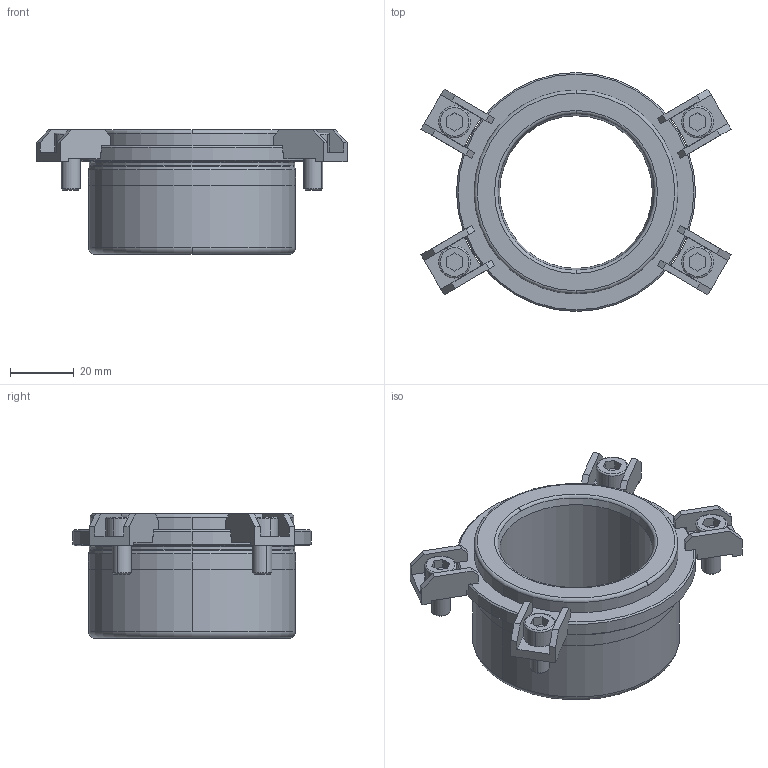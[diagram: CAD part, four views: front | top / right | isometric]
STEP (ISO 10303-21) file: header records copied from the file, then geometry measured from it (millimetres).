
FILE_DESCRIPTION((''),'2;1');
FILE_NAME('B42_040_029.stp','2008-11-04T14:34:55',(''),(''),'Mechanical Desktop 2009','Mechanical Desktop 2009',', , ');
FILE_SCHEMA(('CONFIG_CONTROL_DESIGN'));
Length unit declared in the file: millimetre
Products named in the file (2): Product; blmdl1
Assembly tree (1 placements, depth 2):
  Product
    blmdl1
Bounding box: 97.32 x 75 x 39 mm (x, y, z)
Volume: 69420.2 mm3; surface area: 25272.5 mm2
Topology: 9 solids, 9 shells, 233 faces, 598 edges, 394 vertices
Faces by surface type: plane 137, cylinder 48, cone 20, torus 16, bspline 12
Entity records: 7707 total; most frequent: CARTESIAN_POINT 1755, DIRECTION 1258, ORIENTED_EDGE 1196, EDGE_CURVE 598, AXIS2_PLACEMENT_3D 437, VERTEX_POINT 394, VECTOR 384, LINE 384
